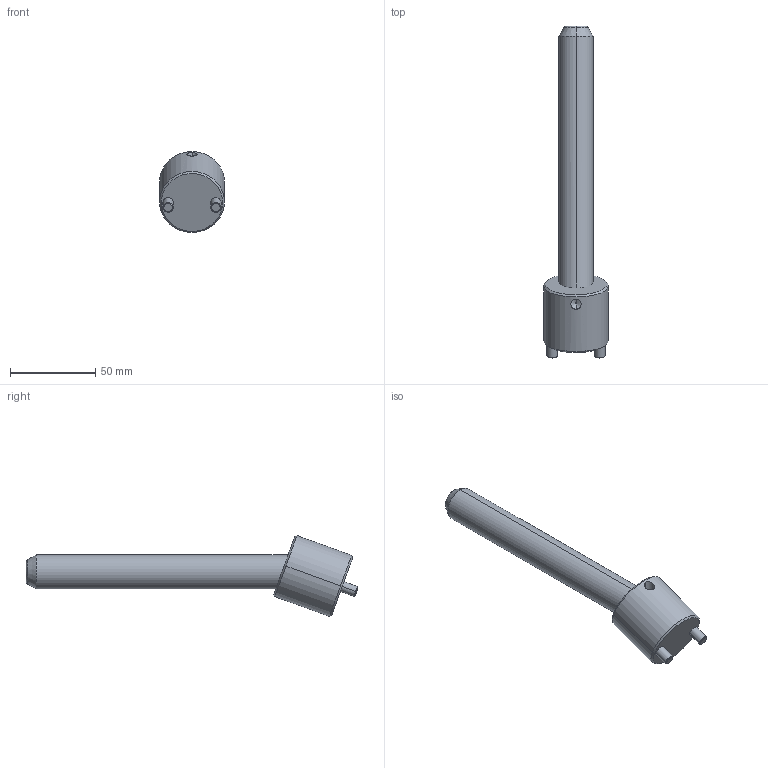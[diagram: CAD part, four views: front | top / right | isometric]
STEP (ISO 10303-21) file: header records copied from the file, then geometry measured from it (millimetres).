
FILE_DESCRIPTION(('CATIA V5 STEP Exchange'),'2;1');
FILE_NAME('C:\Users\Raffaele\Desktop\3D BOLEX\3D FILES CF BOLEX\19-INCLINED ASSEMBLY REF_CI\CI2020150.stp','2019-06-24T06:42:43+00:00',('none'),('none'),'CATIA Version 5 Release 20 GA (IN-10)','CATIA V5 STEP AP203','none');
FILE_SCHEMA(('CONFIG_CONTROL_DESIGN'));
Length unit declared in the file: millimetre
Products named in the file (1): CI2020150
Assembly tree (2 placements, depth 2):
  CI2020150
    #58
    #572
Bounding box: 38 x 194.51 x 47.34 mm (x, y, z)
Volume: 87255.5 mm3; surface area: 20554.1 mm2
Topology: 2 solids, 2 shells, 39 faces, 82 edges, 47 vertices
Faces by surface type: cone 14, cylinder 14, plane 7, torus 4
Entity records: 1515 total; most frequent: CARTESIAN_POINT 658, ORIENTED_EDGE 160, DIRECTION 144, EDGE_CURVE 80, AXIS2_PLACEMENT_3D 71, VERTEX_POINT 47, EDGE_LOOP 43, ADVANCED_FACE 39
